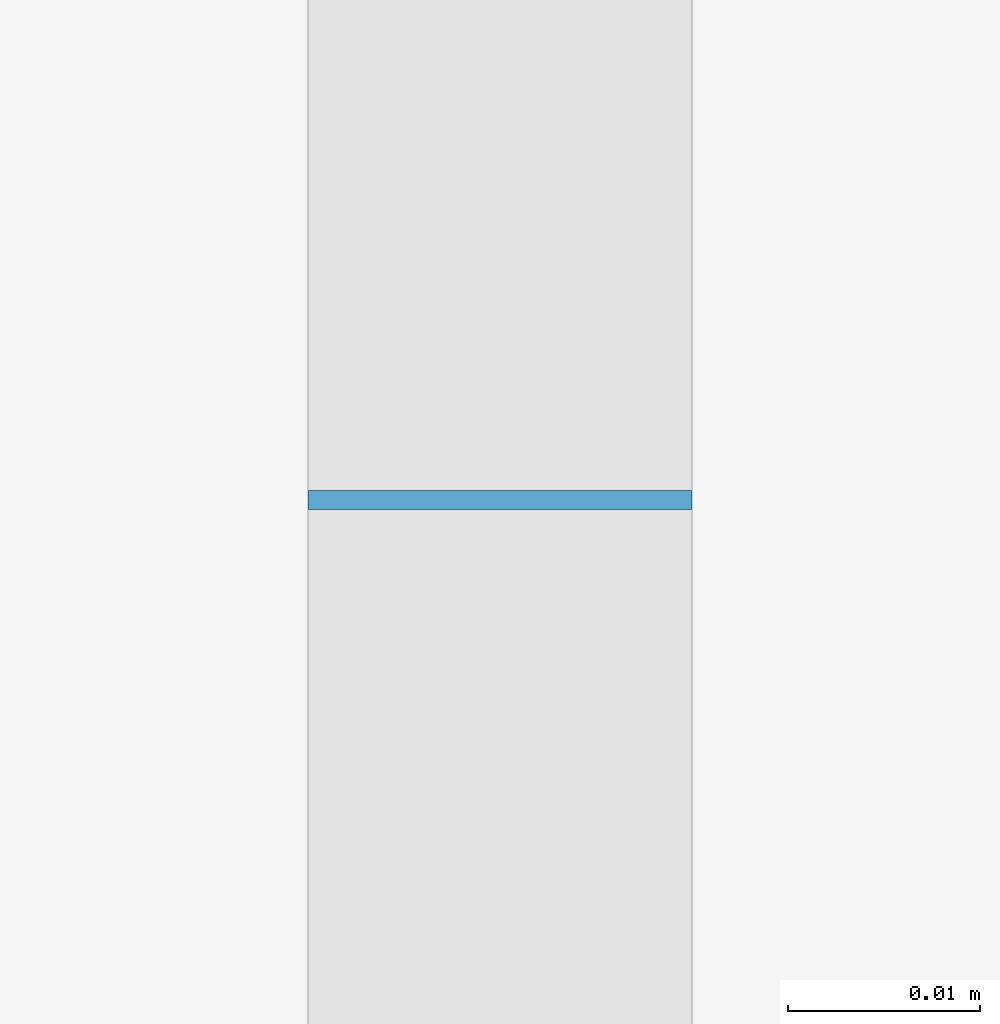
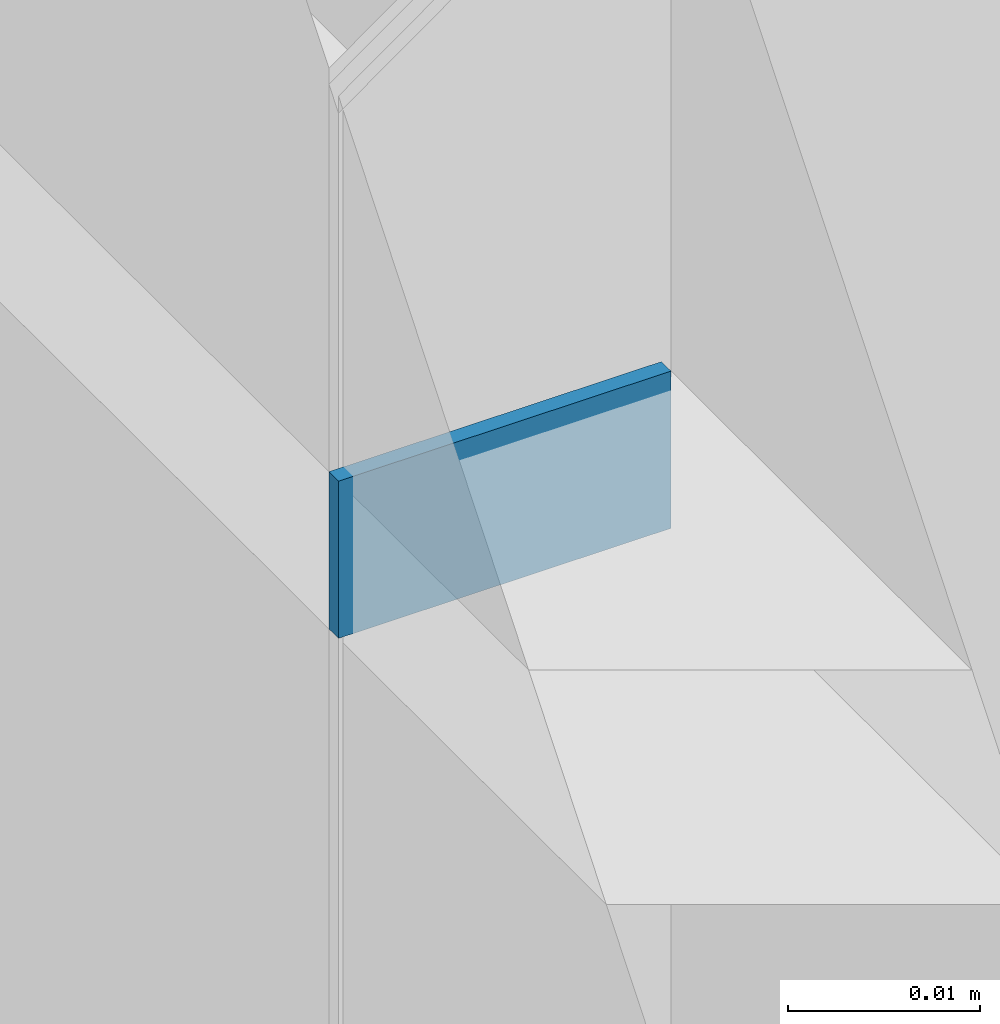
# One storey, part 42 of 66: 1 plate, 1 element without a shape of its own.
"""IFC2X3 building model written with IfcOpenShell, lengths in millimetres."""

from ifc_helpers import new_model, entity, si_unit, converted_unit, derived_unit, direction, frame, origin, origin_2d_with_axis, place, context, subcontext, project, spatial, rectangle, extrude, source, transform, mapped, material, layer, layer_set, layer_usage, type_object, type_shapes, element, aggregate, save


model = new_model("IFC2X3")

# Units and contexts
model_context = context("Model", 3, precision=0.01, world=origin(), true_north=direction((6.12303176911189e-17, 1.0)))
body_context = subcontext(model_context, "Body", "Model", "MODEL_VIEW")
ifc_project = project(units=[si_unit("LENGTHUNIT", "METRE", prefix="MILLI"), si_unit("AREAUNIT", "SQUARE_METRE"), si_unit("VOLUMEUNIT", "CUBIC_METRE"), converted_unit("PLANEANGLEUNIT", "DEGREE", entity("IfcRatioMeasure", 0.0174532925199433), si_unit("PLANEANGLEUNIT", "RADIAN"), dimensions=[0, 0, 0, 0, 0, 0, 0]), si_unit("MASSUNIT", "GRAM", prefix="KILO"), derived_unit("MASSDENSITYUNIT", [(si_unit("MASSUNIT", "GRAM", prefix="KILO"), 1), (si_unit("LENGTHUNIT", "METRE"), -3)]), si_unit("TIMEUNIT", "SECOND"), si_unit("FREQUENCYUNIT", "HERTZ"), si_unit("THERMODYNAMICTEMPERATUREUNIT", "DEGREE_CELSIUS"), derived_unit("THERMALTRANSMITTANCEUNIT", [(si_unit("MASSUNIT", "GRAM", prefix="KILO"), 1), (si_unit("THERMODYNAMICTEMPERATUREUNIT", "KELVIN"), -1), (si_unit("TIMEUNIT", "SECOND"), -3)]), derived_unit("VOLUMETRICFLOWRATEUNIT", [(si_unit("LENGTHUNIT", "METRE"), 3), (si_unit("TIMEUNIT", "SECOND"), -1)]), si_unit("ELECTRICCURRENTUNIT", "AMPERE"), si_unit("ELECTRICVOLTAGEUNIT", "VOLT"), si_unit("POWERUNIT", "WATT"), si_unit("FORCEUNIT", "NEWTON", prefix="KILO"), si_unit("ILLUMINANCEUNIT", "LUX"), si_unit("LUMINOUSFLUXUNIT", "LUMEN"), si_unit("LUMINOUSINTENSITYUNIT", "CANDELA"), derived_unit("USERDEFINED", [(si_unit("MASSUNIT", "GRAM", prefix="KILO"), -1), (si_unit("LENGTHUNIT", "METRE"), -2), (si_unit("TIMEUNIT", "SECOND"), 3), (si_unit("LUMINOUSFLUXUNIT", "LUMEN"), 1)]), derived_unit("LINEARVELOCITYUNIT", [(si_unit("LENGTHUNIT", "METRE"), 1), (si_unit("TIMEUNIT", "SECOND"), -1)]), si_unit("PRESSUREUNIT", "PASCAL"), derived_unit("USERDEFINED", [(si_unit("LENGTHUNIT", "METRE"), -2), (si_unit("MASSUNIT", "GRAM", prefix="KILO"), 1), (si_unit("TIMEUNIT", "SECOND"), -2)])], contexts=[model_context])

# Site, building, storey
site_placement = place(None, frame((-151.875543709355, 2715.0, 0.0)))
site = spatial("IfcSite", under=ifc_project, at=site_placement, Name="Surface", CompositionType="ELEMENT")
building_placement = place(site_placement, origin())
building = spatial("IfcBuilding", under=site, at=building_placement, CompositionType="ELEMENT")
storey_placement = place(building_placement, frame((0.0, 0.0, 3350.0)))
storey = spatial("IfcBuildingStorey", under=building, at=storey_placement, Name="2 korrus", CompositionType="ELEMENT", Elevation=3350.00000000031)

# Curtain wall, plate
curtain_wall_type = type_object("IfcCurtainWallType", Name="Curtain Wall:Klaassein KLS-05", PredefinedType="NOTDEFINED")
curtain_wall_placement = place(storey_placement, frame((0.0, 0.0, -3350.0)))
curtain_wall = element("IfcCurtainWall", 1, at=curtain_wall_placement, inside=storey, type_object=curtain_wall_type, Name="Curtain Wall:Klaassein KLS-05", ObjectType="Curtain Wall:Klaassein KLS-05")
ifc_material = material(Name="<Unnamed>")
ifc_layer = layer(ifc_material, 20.0)
ifc_layer_set = layer_set([ifc_layer], Name="Curtain Wall:Klaassein KLS-01")
ifc_layer_usage = layer_usage(ifc_layer_set, "AXIS3", "POSITIVE", 0.0)
plate_type = type_object("IfcPlateType", Name="Glazed", PredefinedType="CURTAIN_PANEL", material=ifc_layer_set)
shared_shape = source(origin(), body_context, "Body", "SweptSolid", [
    extrude(rectangle(XDim=20.0, YDim=0.999999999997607, at=origin_2d_with_axis()), frame((0.0, 0.0, 0.0), z_axis=(0.0, 0.0, 1.0), x_axis=(0.0, 1.0, 0.0)), (0.0, 0.0, 1.0), 9.99999999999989),
])
type_shapes(plate_type, [shared_shape])
plate_placement = place(curtain_wall_placement, frame((24073.28599988, 8399.58011854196, 5440.0), z_axis=(0.0, 0.0, 1.0), x_axis=(0.0, -1.0, 0.0)))
plate = element("IfcPlate", 2, at=plate_placement, type_object=plate_type, material=ifc_layer_usage, Name="System Panel:Glazed", ObjectType="Glazed", context=body_context, shape_type="MappedRepresentation", body=[
    mapped(shared_shape, transform((0.0, 0.0, 0.0), scale=1.0)),
])
aggregate(curtain_wall, [plate])

save(model, "model.ifc")
